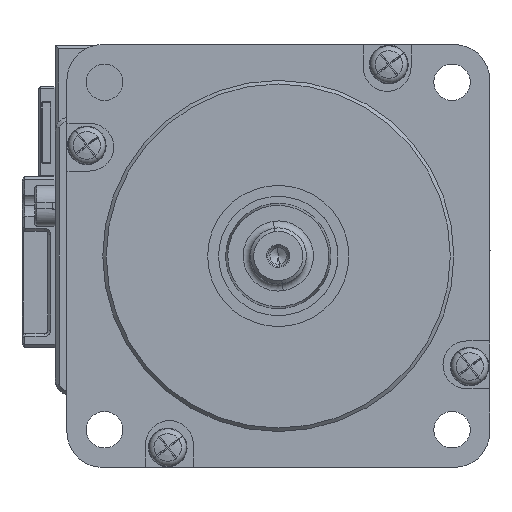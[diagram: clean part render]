
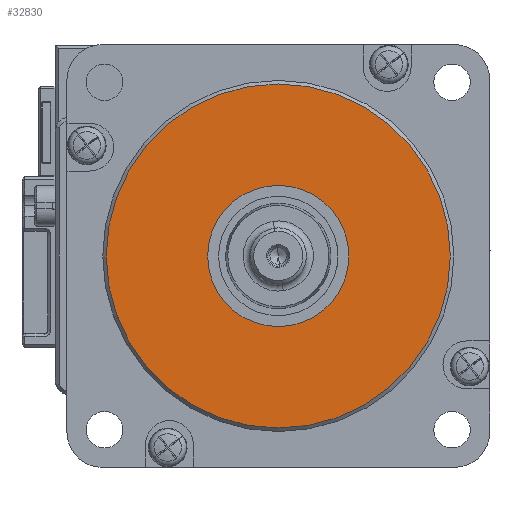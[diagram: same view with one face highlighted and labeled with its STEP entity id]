
A CAD part, left-side view. The second image highlights one B-rep face of the part: STEP entity #32830.
In plain terms, the highlighted planar face has unit normal (-1, 0, 0) as drawn and (0, 0, -1) by its records, which use the part's own axes.
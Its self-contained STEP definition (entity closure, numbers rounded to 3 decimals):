
#1076 = EDGE_CURVE ( 'NONE', #54800, #54800, #45093, .T. ) ;
#1624 = PLANE ( 'NONE',  #20027 ) ;
#1778 = VERTEX_POINT ( 'NONE', #21245 ) ;
#3736 = CARTESIAN_POINT ( 'NONE',  ( 0., 0., 0. ) ) ;
#6199 = DIRECTION ( 'NONE',  ( 1., 0., 0. ) ) ;
#8375 = AXIS2_PLACEMENT_3D ( 'NONE', #10678, #44880, #6199 ) ;
#10678 = CARTESIAN_POINT ( 'NONE',  ( 0., 0., 0. ) ) ;
#11160 = FACE_OUTER_BOUND ( 'NONE', #27929, .T. ) ;
#11167 = CARTESIAN_POINT ( 'NONE',  ( 0., 0., 0. ) ) ;
#13084 = EDGE_CURVE ( 'NONE', #1778, #1778, #31022, .T. ) ;
#15703 = AXIS2_PLACEMENT_3D ( 'NONE', #11167, #25577, #49560 ) ;
#20027 = AXIS2_PLACEMENT_3D ( 'NONE', #3736, #37926, #63121 ) ;
#21245 = CARTESIAN_POINT ( 'NONE',  ( 24.5, 0., 0. ) ) ;
#25577 = DIRECTION ( 'NONE',  ( 0., 0., -1. ) ) ;
#27929 = EDGE_LOOP ( 'NONE', ( #36892 ) ) ;
#31022 = CIRCLE ( 'NONE', #15703, 24.5 ) ;
#32830 = ADVANCED_FACE ( 'NONE', ( #11160, #45384 ), #1624, .F. ) ;
#34973 = ORIENTED_EDGE ( 'NONE', *, *, #1076, .T. ) ;
#35649 = CARTESIAN_POINT ( 'NONE',  ( 10.051, 0., 0. ) ) ;
#36806 = EDGE_LOOP ( 'NONE', ( #34973 ) ) ;
#36892 = ORIENTED_EDGE ( 'NONE', *, *, #13084, .T. ) ;
#37926 = DIRECTION ( 'NONE',  ( 0., 0., 1. ) ) ;
#44880 = DIRECTION ( 'NONE',  ( 0., 0., 1. ) ) ;
#45093 = CIRCLE ( 'NONE', #8375, 10.051 ) ;
#45384 = FACE_BOUND ( 'NONE', #36806, .T. ) ;
#49560 = DIRECTION ( 'NONE',  ( 1., 0., 0. ) ) ;
#54800 = VERTEX_POINT ( 'NONE', #35649 ) ;
#63121 = DIRECTION ( 'NONE',  ( 1., 0., 0. ) ) ;
